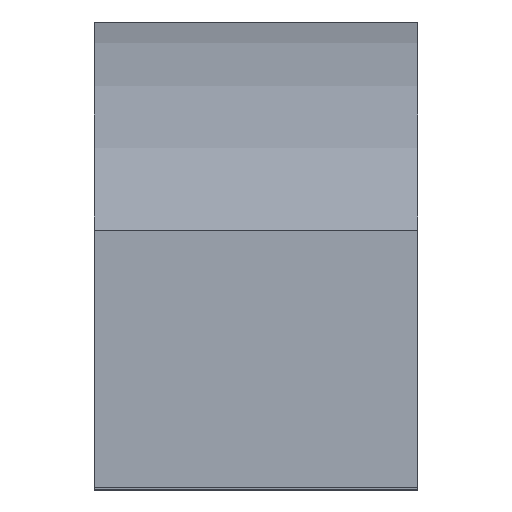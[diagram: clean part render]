
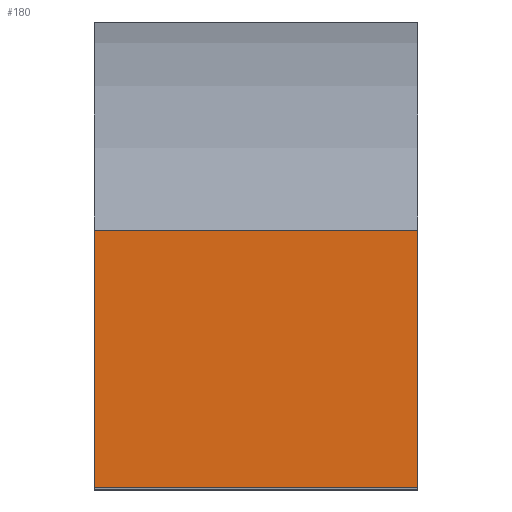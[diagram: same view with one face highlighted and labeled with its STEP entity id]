
A CAD part, top view. The second image highlights one B-rep face of the part: STEP entity #180.
In plain terms, the highlighted planar face has unit normal (0, 0, 1).
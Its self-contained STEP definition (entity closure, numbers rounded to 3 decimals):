
#17=PLANE('',#213);
#26=FACE_OUTER_BOUND('',#36,.T.);
#36=EDGE_LOOP('',(#143,#144,#145,#146));
#44=LINE('',#280,#64);
#49=LINE('',#291,#69);
#53=LINE('',#301,#73);
#54=LINE('',#302,#74);
#64=VECTOR('',#230,1000.);
#69=VECTOR('',#239,1000.);
#73=VECTOR('',#247,1000.);
#74=VECTOR('',#248,1000.);
#87=VERTEX_POINT('',#273);
#90=VERTEX_POINT('',#278);
#94=VERTEX_POINT('',#290);
#98=VERTEX_POINT('',#300);
#106=EDGE_CURVE('',#90,#87,#44,.T.);
#111=EDGE_CURVE('',#87,#94,#49,.T.);
#116=EDGE_CURVE('',#94,#98,#53,.T.);
#117=EDGE_CURVE('',#98,#90,#54,.T.);
#143=ORIENTED_EDGE('',*,*,#116,.F.);
#144=ORIENTED_EDGE('',*,*,#111,.F.);
#145=ORIENTED_EDGE('',*,*,#106,.F.);
#146=ORIENTED_EDGE('',*,*,#117,.F.);
#180=ADVANCED_FACE('',(#26),#17,.F.);
#213=AXIS2_PLACEMENT_3D('',#299,#245,#246);
#230=DIRECTION('',(1.,0.,0.));
#239=DIRECTION('',(0.,-1.,0.));
#245=DIRECTION('center_axis',(0.,0.,-1.));
#246=DIRECTION('ref_axis',(0.,-1.,0.));
#247=DIRECTION('',(-1.,0.,0.));
#248=DIRECTION('',(0.,1.,0.));
#273=CARTESIAN_POINT('',(0.746,0.195,8.));
#278=CARTESIAN_POINT('',(-3.254,0.195,8.));
#280=CARTESIAN_POINT('',(0.746,0.195,8.));
#290=CARTESIAN_POINT('',(0.746,-2.988,8.));
#291=CARTESIAN_POINT('',(0.746,-10.723,8.));
#299=CARTESIAN_POINT('Origin',(0.746,-2.988,8.));
#300=CARTESIAN_POINT('',(-3.254,-2.988,8.));
#301=CARTESIAN_POINT('',(0.746,-2.988,8.));
#302=CARTESIAN_POINT('',(-3.254,-2.988,8.));
